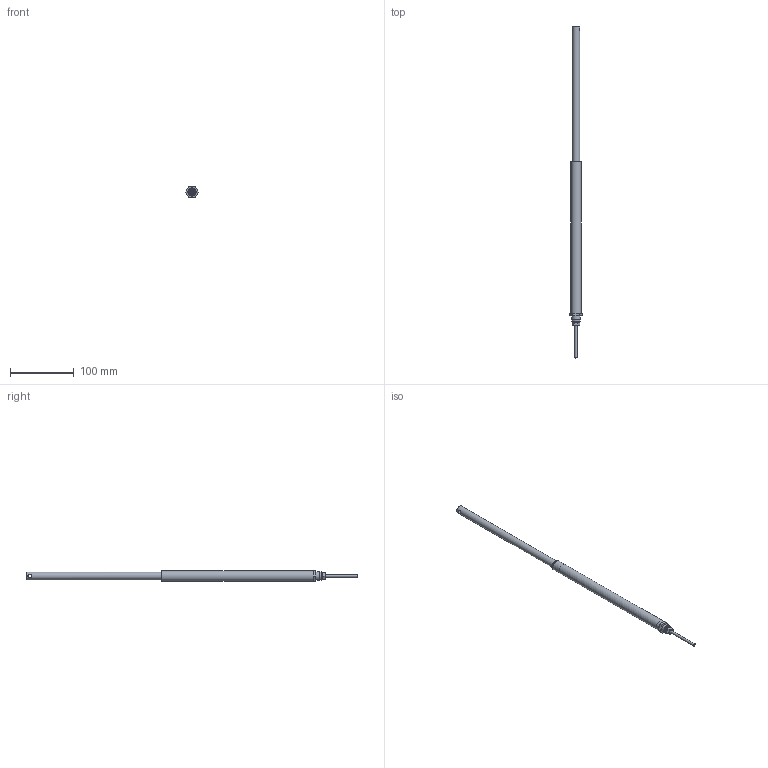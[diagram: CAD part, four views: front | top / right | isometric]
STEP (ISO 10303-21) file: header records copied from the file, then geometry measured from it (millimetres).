
FILE_DESCRIPTION(/* description */ ('Unknown'),/* implementation_level */ '2;1');
FILE_NAME(/* name */ '107.00162 Zylinder CI 1420_ausgefahren',/* time_stamp */ '2018-07-06T17:38:24+02:00',/* author */ ('Unknown'),/* organization */ ('Unknown'),/* preprocessor_version */ 'ST-DEVELOPER v16.7',/* originating_system */ 'DEX',/* authorisation */ $);
FILE_SCHEMA (('AUTOMOTIVE_DESIGN {1 0 10303 214 3 1 1}'));
Length unit declared in the file: millimetre
Products named in the file (9): 107.00162; 121.00002; 142.00021; 125.00021; 115.00007_oa_0; 125.00031; 120.00002; 122.00001; 113.00002_70mm
Assembly tree (8 placements, depth 2):
  107.00162
    121.00002
    142.00021
    125.00021
    115.00007_oa_0
    125.00031
    120.00002
    122.00001
    113.00002_70mm
Bounding box: 19.63 x 521 x 17 mm (x, y, z)
Volume: 41567.9 mm3; surface area: 37004.2 mm2
Topology: 7 solids, 7 shells, 89 faces, 178 edges, 114 vertices
Faces by surface type: plane 37, cylinder 27, cone 21, torus 3, sphere 1
Full cylindrical faces by diameter (mm): 2.2 x1, 3.5 x1, 4 x1, 4.1 x1, 4.2 x1, 6 x1, 6.917 x2, 7.763 x2, 8 x3, 8.1 x3, 9 x1, 12 x2, 12.5 x1, 13 x2, 13.9 x2, 14 x2, 16 x1
Entity records: 2650 total; most frequent: CARTESIAN_POINT 397, DIRECTION 376, ORIENTED_EDGE 244, AXIS2_PLACEMENT_3D 170, FACE_BOUND 159, EDGE_LOOP 158, EDGE_CURVE 122, VERTEX_POINT 105
